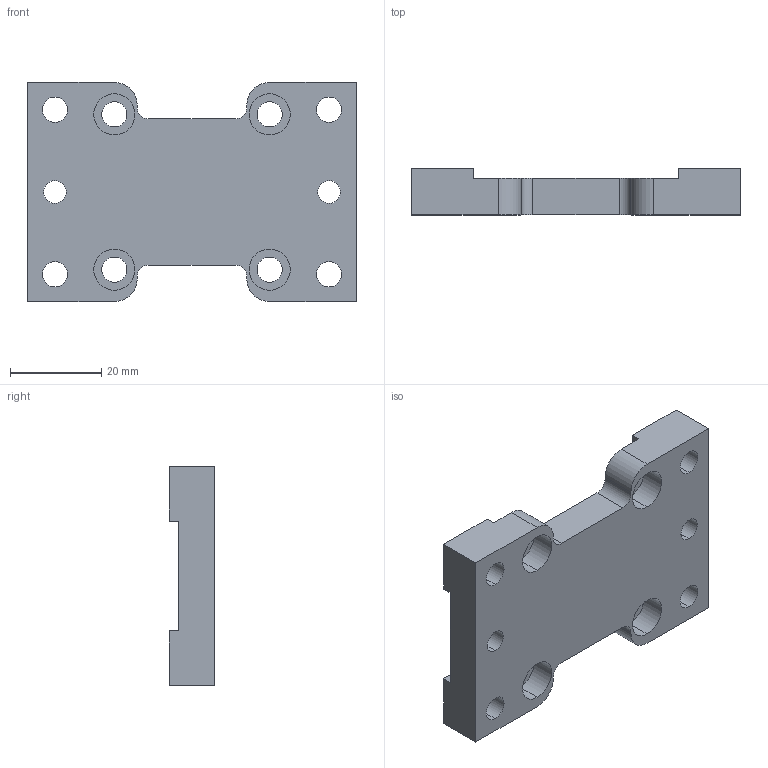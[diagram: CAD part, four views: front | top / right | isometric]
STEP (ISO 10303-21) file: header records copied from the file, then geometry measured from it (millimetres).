
FILE_DESCRIPTION (( 'STEP AP203' ), '1' );
FILE_NAME ('T32S.step', '2017-02-15T12:26:10', ( '' ), ( '' ), 'SwSTEP 2.0', 'SolidWorks 2012', '' );
FILE_SCHEMA (( 'CONFIG_CONTROL_DESIGN' ));
Length unit declared in the file: millimetre
Products named in the file (1): T32S
Bounding box: 72 x 10 x 48 mm (x, y, z)
Volume: 21994.1 mm3; surface area: 10104.9 mm2
Topology: 1 solids, 1 shells, 78 faces, 204 edges, 136 vertices
Faces by surface type: cylinder 44, plane 34
Entity records: 2553 total; most frequent: DIRECTION 450, CARTESIAN_POINT 419, ORIENTED_EDGE 408, EDGE_CURVE 204, AXIS2_PLACEMENT_3D 167, VERTEX_POINT 136, LINE 116, VECTOR 116
